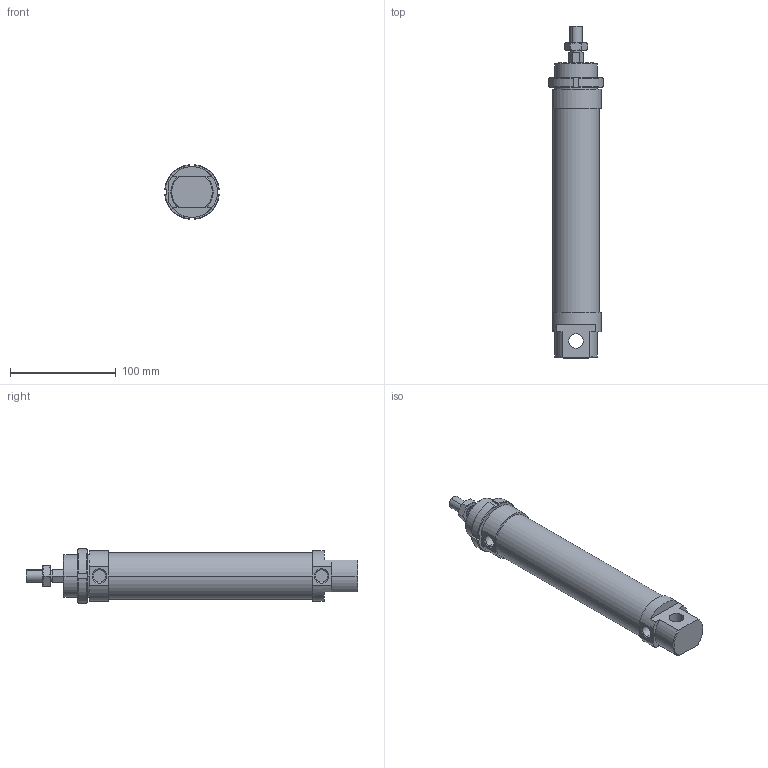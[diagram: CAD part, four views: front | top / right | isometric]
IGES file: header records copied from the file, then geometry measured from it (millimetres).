
Global section: file name: No Iges File Name specified; native system: AutoDesk Inventor R6.0; preprocessor: AutoDesk Inventor Iges Exporter R6.0; author: No Author specified; organization: No Organization specified; date: 20030405.074459; units: millimetre
Bounding box: 51.76 x 314 x 51.76 mm (x, y, z)
Volume: 419114.4 mm3; surface area: 67191.1 mm2
Topology: 4 solids, 4 shells, 126 faces, 298 edges, 188 vertices
Faces by surface type: plane 52, cone 30, cylinder 20, bspline 20, revolution 4
